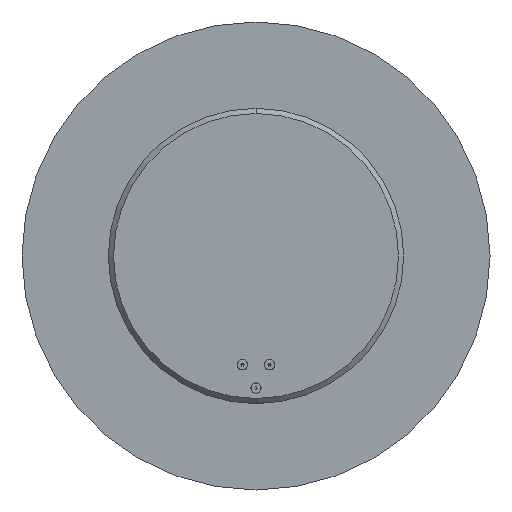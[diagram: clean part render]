
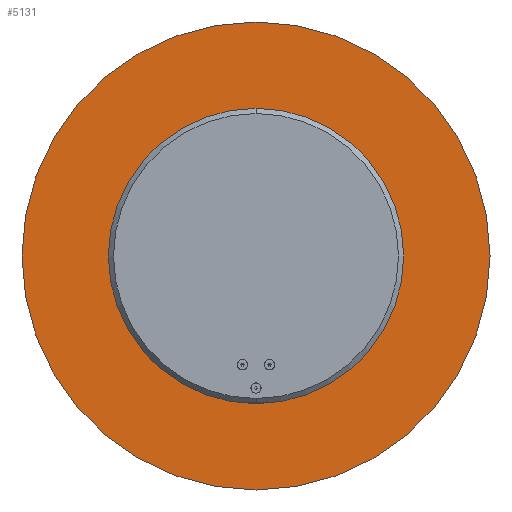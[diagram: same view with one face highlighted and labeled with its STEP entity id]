
A CAD part, front view. The second image highlights one B-rep face of the part: STEP entity #5131.
In plain terms, the highlighted planar face has unit normal (0, -1, 0).
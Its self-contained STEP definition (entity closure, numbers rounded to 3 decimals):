
#74 = CARTESIAN_POINT ( 'NONE',  ( 0., 0., -450. ) ) ;
#206 = VERTEX_POINT ( 'NONE', #2693 ) ;
#561 = CIRCLE ( 'NONE', #4470, 450. ) ;
#576 = EDGE_CURVE ( 'NONE', #2601, #206, #561, .T. ) ;
#853 = FACE_OUTER_BOUND ( 'NONE', #3978, .T. ) ;
#931 = DIRECTION ( 'NONE',  ( 0., 0., 1. ) ) ;
#1176 = DIRECTION ( 'NONE',  ( 0., 0., 1. ) ) ;
#1671 = CARTESIAN_POINT ( 'NONE',  ( 0., 0., 0. ) ) ;
#2132 = DIRECTION ( 'NONE',  ( 0., 0., 1. ) ) ;
#2197 = DIRECTION ( 'NONE',  ( 0., 1., 0. ) ) ;
#2549 = DIRECTION ( 'NONE',  ( 0., 1., 0. ) ) ;
#2601 = VERTEX_POINT ( 'NONE', #74 ) ;
#2676 = AXIS2_PLACEMENT_3D ( 'NONE', #1671, #2197, #1176 ) ;
#2689 = CARTESIAN_POINT ( 'NONE',  ( 0., 0., 0. ) ) ;
#2693 = CARTESIAN_POINT ( 'NONE',  ( 0., 0., 450. ) ) ;
#3616 = EDGE_CURVE ( 'NONE', #206, #2601, #5356, .T. ) ;
#3978 = EDGE_LOOP ( 'NONE', ( #5297, #4018 ) ) ;
#4018 = ORIENTED_EDGE ( 'NONE', *, *, #3616, .F. ) ;
#4031 = CARTESIAN_POINT ( 'NONE',  ( 0., 0., 0. ) ) ;
#4470 = AXIS2_PLACEMENT_3D ( 'NONE', #2689, #5514, #2132 ) ;
#5026 = AXIS2_PLACEMENT_3D ( 'NONE', #4031, #2549, #931 ) ;
#5131 = ADVANCED_FACE ( 'NONE', ( #853 ), #6730, .F. ) ;
#5297 = ORIENTED_EDGE ( 'NONE', *, *, #576, .F. ) ;
#5356 = CIRCLE ( 'NONE', #2676, 450. ) ;
#5514 = DIRECTION ( 'NONE',  ( 0., 1., 0. ) ) ;
#6730 = PLANE ( 'NONE',  #5026 ) ;
